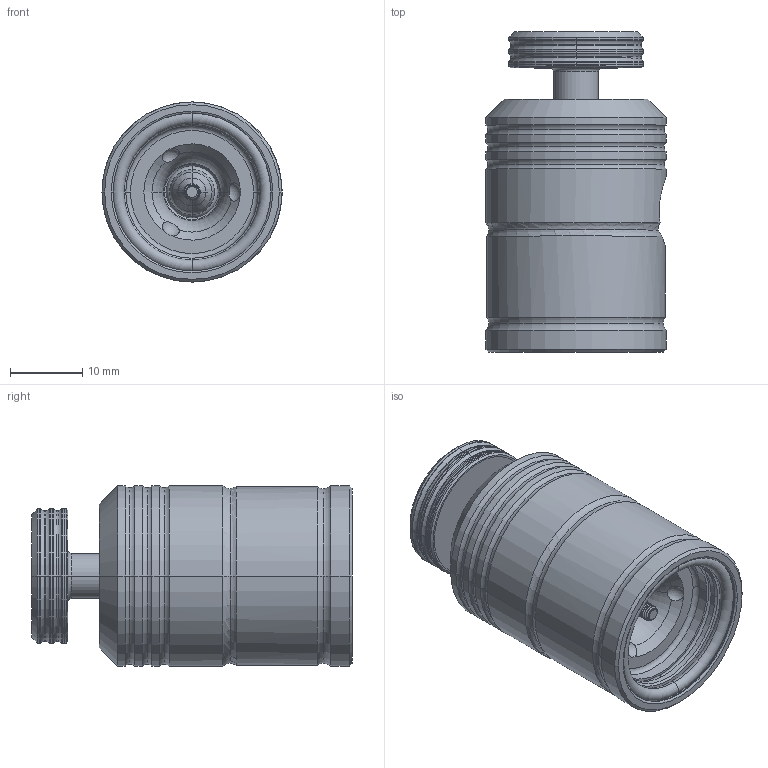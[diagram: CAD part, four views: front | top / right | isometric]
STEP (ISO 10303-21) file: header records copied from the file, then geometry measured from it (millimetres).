
FILE_DESCRIPTION (( 'STEP AP203' ), '1' );
FILE_NAME ('701-001-601-0A_LP_SeaVent_Vacuum_Adapter.STEP', '2025-01-21T18:21:07', ( '' ), ( '' ), 'SwSTEP 2.0', 'SolidWorks 2023', '' );
FILE_SCHEMA (( 'CONFIG_CONTROL_DESIGN' ));
Length unit declared in the file: millimetre
Products named in the file (1): 701-001-601-0A_LP_SeaVent_Vacuum_Adapter
Bounding box: 24.89 x 44.28 x 24.89 mm (x, y, z)
Volume: 17297.6 mm3; surface area: 7946.7 mm2
Topology: 6 solids, 6 shells, 285 faces, 625 edges, 359 vertices
Faces by surface type: torus 118, cylinder 97, cone 39, plane 22, bspline 6, sphere 3
Entity records: 10260 total; most frequent: CARTESIAN_POINT 3968, DIRECTION 1451, ORIENTED_EDGE 1250, AXIS2_PLACEMENT_3D 661, EDGE_CURVE 625, CIRCLE 381, VERTEX_POINT 359, EDGE_LOOP 302
